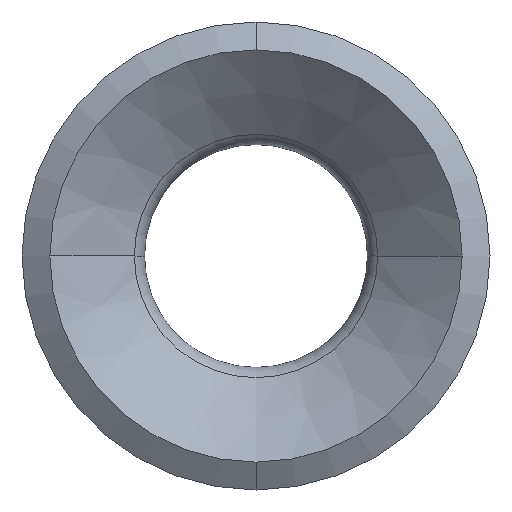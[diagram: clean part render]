
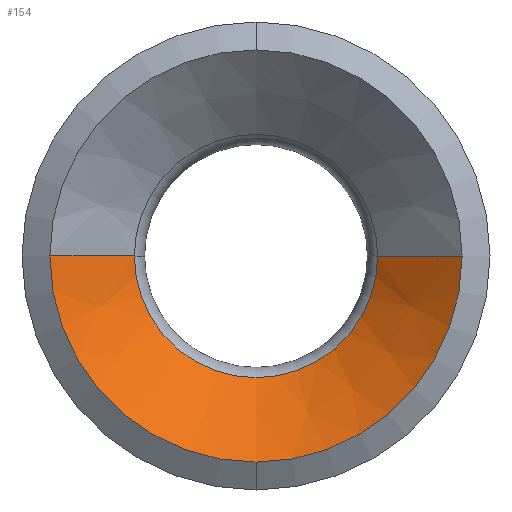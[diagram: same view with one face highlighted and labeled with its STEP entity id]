
A CAD part, front view. The second image highlights one B-rep face of the part: STEP entity #154.
In plain terms, the highlighted conical face has half-angle 50.633 degrees and reference radius 3.7 mm.
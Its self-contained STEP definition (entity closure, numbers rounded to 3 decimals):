
#26 = EDGE_CURVE ( 'NONE', #36, #291, #354, .T. ) ;
#28 = CARTESIAN_POINT ( 'NONE',  ( -3.7, -5.5, 0. ) ) ;
#30 = ORIENTED_EDGE ( 'NONE', *, *, #549, .F. ) ;
#33 = CARTESIAN_POINT ( 'NONE',  ( 0., -4.255, 0. ) ) ;
#36 = VERTEX_POINT ( 'NONE', #366 ) ;
#83 = CARTESIAN_POINT ( 'NONE',  ( 0., -5.5, 0. ) ) ;
#100 = CARTESIAN_POINT ( 'NONE',  ( -2.183, -4.255, 0. ) ) ;
#102 = LINE ( 'NONE', #676, #118 ) ;
#107 = DIRECTION ( 'NONE',  ( 0., 1., 0. ) ) ;
#109 = AXIS2_PLACEMENT_3D ( 'NONE', #83, #622, #522 ) ;
#116 = AXIS2_PLACEMENT_3D ( 'NONE', #33, #677, #621 ) ;
#118 = VECTOR ( 'NONE', #364, 1000. ) ;
#120 = CIRCLE ( 'NONE', #316, 3.7 ) ;
#145 = CARTESIAN_POINT ( 'NONE',  ( 0., -5.5, -3.7 ) ) ;
#154 = ADVANCED_FACE ( 'NONE', ( #611 ), #285, .F. ) ;
#174 = EDGE_CURVE ( 'NONE', #456, #584, #120, .T. ) ;
#209 = ORIENTED_EDGE ( 'NONE', *, *, #581, .T. ) ;
#256 = VERTEX_POINT ( 'NONE', #538 ) ;
#276 = CARTESIAN_POINT ( 'NONE',  ( 0., -5.5, 0. ) ) ;
#283 = CIRCLE ( 'NONE', #109, 3.7 ) ;
#285 = CONICAL_SURFACE ( 'NONE', #343, 3.7, 0.884 ) ;
#291 = VERTEX_POINT ( 'NONE', #100 ) ;
#316 = AXIS2_PLACEMENT_3D ( 'NONE', #276, #107, #331 ) ;
#323 = EDGE_LOOP ( 'NONE', ( #561, #209, #500, #30, #629 ) ) ;
#331 = DIRECTION ( 'NONE',  ( -1., 0., 0. ) ) ;
#343 = AXIS2_PLACEMENT_3D ( 'NONE', #351, #608, #623 ) ;
#351 = CARTESIAN_POINT ( 'NONE',  ( 0., -5.5, 0. ) ) ;
#354 = CIRCLE ( 'NONE', #116, 2.183 ) ;
#364 = DIRECTION ( 'NONE',  ( 0.773, -0.634, 0. ) ) ;
#366 = CARTESIAN_POINT ( 'NONE',  ( 2.183, -4.255, 0. ) ) ;
#393 = VECTOR ( 'NONE', #573, 1000. ) ;
#456 = VERTEX_POINT ( 'NONE', #145 ) ;
#470 = CARTESIAN_POINT ( 'NONE',  ( -3.7, -5.5, 0. ) ) ;
#500 = ORIENTED_EDGE ( 'NONE', *, *, #174, .F. ) ;
#521 = LINE ( 'NONE', #470, #393 ) ;
#522 = DIRECTION ( 'NONE',  ( -1., 0., 0. ) ) ;
#538 = CARTESIAN_POINT ( 'NONE',  ( 3.7, -5.5, 0. ) ) ;
#549 = EDGE_CURVE ( 'NONE', #256, #456, #283, .T. ) ;
#552 = EDGE_CURVE ( 'NONE', #36, #256, #102, .T. ) ;
#561 = ORIENTED_EDGE ( 'NONE', *, *, #26, .T. ) ;
#573 = DIRECTION ( 'NONE',  ( -0.773, -0.634, 0. ) ) ;
#581 = EDGE_CURVE ( 'NONE', #291, #584, #521, .T. ) ;
#584 = VERTEX_POINT ( 'NONE', #28 ) ;
#608 = DIRECTION ( 'NONE',  ( 0., -1., 0. ) ) ;
#611 = FACE_OUTER_BOUND ( 'NONE', #323, .T. ) ;
#621 = DIRECTION ( 'NONE',  ( -1., 0., 0. ) ) ;
#622 = DIRECTION ( 'NONE',  ( 0., 1., 0. ) ) ;
#623 = DIRECTION ( 'NONE',  ( 1., 0., 0. ) ) ;
#629 = ORIENTED_EDGE ( 'NONE', *, *, #552, .F. ) ;
#676 = CARTESIAN_POINT ( 'NONE',  ( 3.7, -5.5, 0. ) ) ;
#677 = DIRECTION ( 'NONE',  ( 0., 1., 0. ) ) ;
